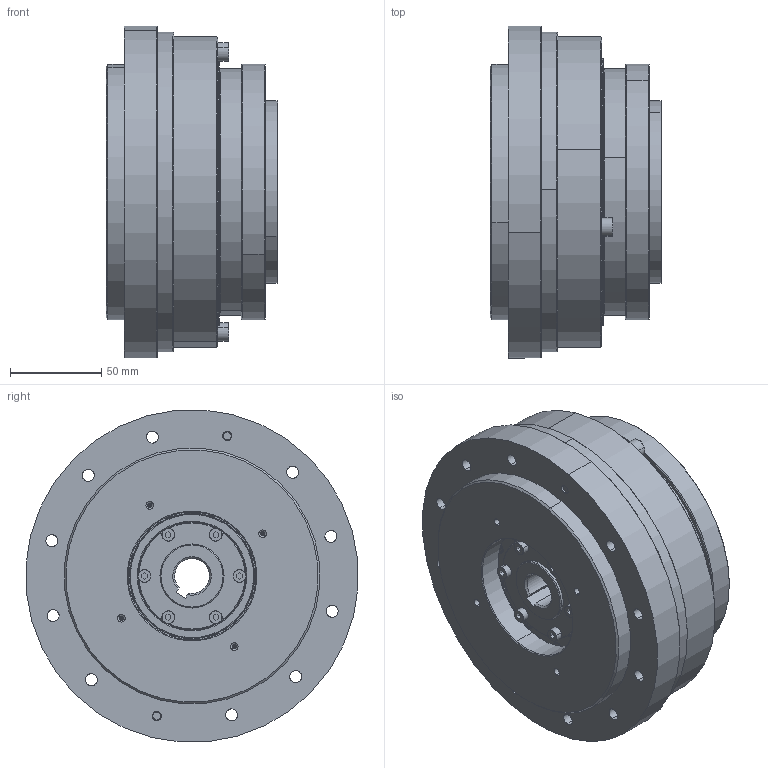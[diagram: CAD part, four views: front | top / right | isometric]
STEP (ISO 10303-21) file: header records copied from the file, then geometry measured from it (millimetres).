
FILE_DESCRIPTION (( 'STEP AP214' ), '1' );
FILE_NAME ('LHSG-40-XXX-RDP-19-40-70-90-M6.step', '2022-08-03T03:58:51', ( 'Sysceo.com' ), ( '' ), 'SwSTEP 2.0', 'SolidWorks 2020', '' );
FILE_SCHEMA (( 'AUTOMOTIVE_DESIGN' ));
Length unit declared in the file: millimetre
Products named in the file (1): LHSG-40-XXX-RDP-19-40-70-90-M6
Bounding box: 94 x 181.53 x 181.53 mm (x, y, z)
Volume: 1310857.4 mm3; surface area: 495029.4 mm2
Topology: 107 solids, 107 shells, 2175 faces, 5138 edges, 2980 vertices
Faces by surface type: cylinder 681, plane 660, cone 450, sphere 228, torus 156
Entity records: 84833 total; most frequent: DIRECTION 11398, CARTESIAN_POINT 10312, ORIENTED_EDGE 9348, AXIS2_PLACEMENT_3D 4722, EDGE_CURVE 4674, VERTEX_POINT 2872, EDGE_LOOP 2624, CIRCLE 2546
